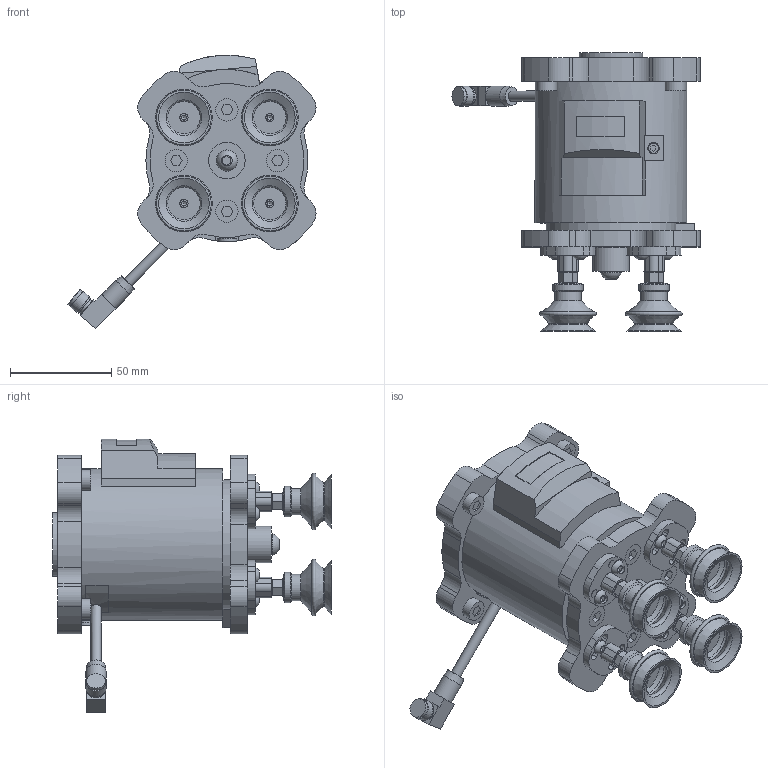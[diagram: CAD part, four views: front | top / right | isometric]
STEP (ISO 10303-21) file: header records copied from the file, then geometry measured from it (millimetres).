
FILE_DESCRIPTION(/* description */ ('STEP AP242','CAx-IF Rec.Pracs.---Representation and Presentation of Product Manufacturing Information (PMI)---4.0---2014-10-13','CAx-IF Rec.Pracs.---3D Tessellated Geometry---0.4---2014-09-14','2;1'),/* implementation_level */ '2;1');
FILE_NAME(/* name */ 'ZXP7A21-ZP25BS-X1(30_30_30_30_0_0_0_0__0)',/* time_stamp */ '2025-12-02T12:51:29+01:00',/* author */ ('License CC BY-ND 4.0'),/* organization */ ('CADENAS'),/* preprocessor_version */ 'ST-DEVELOPER v20',/* originating_system */ 'PARTsolutions',/* authorisation */ ' ');
FILE_SCHEMA (('AP242_MANAGED_MODEL_BASED_3D_ENGINEERING_MIM_LF { 1 0 10303 442 1 1 4 }'));
Length unit declared in the file: millimetre
Products named in the file (7): ZXP7A21-ZP25BS-X1(30_30_30_30_0_0_0_0__0); ZXP7A(0_0); ZXP7-PFL1-A-X1(30_30_30_30_0_0_0_0_0_ZP)_HIDDEN; ZPT3-AS6; ZP25BS; M6x10; M6x8_ZXP
Assembly tree (15 placements, depth 2):
  ZXP7A21-ZP25BS-X1(30_30_30_30_0_0_0_0__0)
    ZXP7A(0_0)
    ZXP7-PFL1-A-X1(30_30_30_30_0_0_0_0_0_ZP)_HIDDEN
    ZPT3-AS6  x4
    ZP25BS  x4
    M6x10  x4
    M6x8_ZXP
Bounding box: 122.52 x 137.4 x 135.04 mm (x, y, z)
Volume: 504930.5 mm3; surface area: 85488.5 mm2
Topology: 15 solids, 15 shells, 767 faces, 1750 edges, 1119 vertices
Faces by surface type: plane 438, cylinder 216, cone 72, torus 32, sphere 9
Full cylindrical faces by diameter (mm): 2.5 x4, 3.34 x1, 4 x4, 4.134 x1, 4.9 x4, 4.917 x10, 5 x5, 5.1 x1, 5.68 x1, 6 x10, 6.2 x1, 6.5 x8, 6.6 x8, 6.8 x1, 7.6 x8, 8 x5, 8.3 x1, 9.3 x2, 9.7 x1, 10 x2, 10.22 x4, 10.4 x1, 10.5 x1, 11 x8, 13 x4, 15 x4, 18 x1, 31.5 x3, 75 x1
Entity records: 16161 total; most frequent: DIRECTION 2831, CARTESIAN_POINT 2691, ORIENTED_EDGE 2426, EDGE_CURVE 1213, AXIS2_PLACEMENT_3D 1039, VERTEX_POINT 865, FACE_BOUND 800, EDGE_LOOP 789
